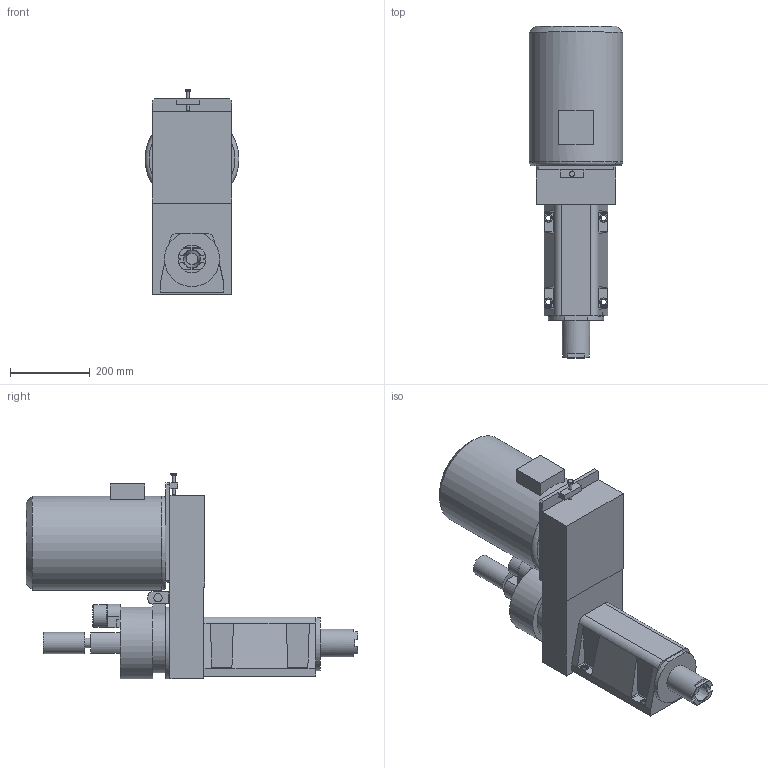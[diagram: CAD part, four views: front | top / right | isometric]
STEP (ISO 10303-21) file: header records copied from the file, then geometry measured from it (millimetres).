
FILE_DESCRIPTION((''),'2;1');
FILE_NAME('C:\VaultWork\Zeichnungen\Maßblätter\Spindeleinheiten\BF4\M01878-3-1 Maßblatt BF4-SK40 IKZ pneum Werkzspanner Z-Laterne.stp','2014-05-06T16:05:56',('Sergeew'),(''),'Autodesk Inventor 2012','Autodesk Inventor 2012','');
FILE_SCHEMA(('AUTOMOTIVE_DESIGN { 1 0 10303 214 1 1 1 1 }'));
Length unit declared in the file: millimetre
Products named in the file (1): M01878-3-1 Maßblatt BF4-SK40 IKZ pneum Werkzspanner Z-Laterne
Bounding box: 235 x 830.3 x 515.3 mm (x, y, z)
Volume: 33166883.5 mm3; surface area: 985996.4 mm2
Topology: 2 solids, 2 shells, 198 faces, 477 edges, 299 vertices
Faces by surface type: plane 128, cylinder 48, cone 21, torus 1
Full cylindrical faces by diameter (mm): 4.134 x1, 4.917 x2, 8 x2, 11.63 x1, 13.5 x4, 20 x4, 20.5 x2, 24 x1, 29 x1, 29.5 x1, 37 x1, 53 x1, 57 x1, 58 x1, 69 x1, 180 x2, 235 x1
Entity records: 5481 total; most frequent: CARTESIAN_POINT 974, DIRECTION 937, ORIENTED_EDGE 860, EDGE_CURVE 430, AXIS2_PLACEMENT_3D 336, VERTEX_POINT 289, VECTOR 265, LINE 265
